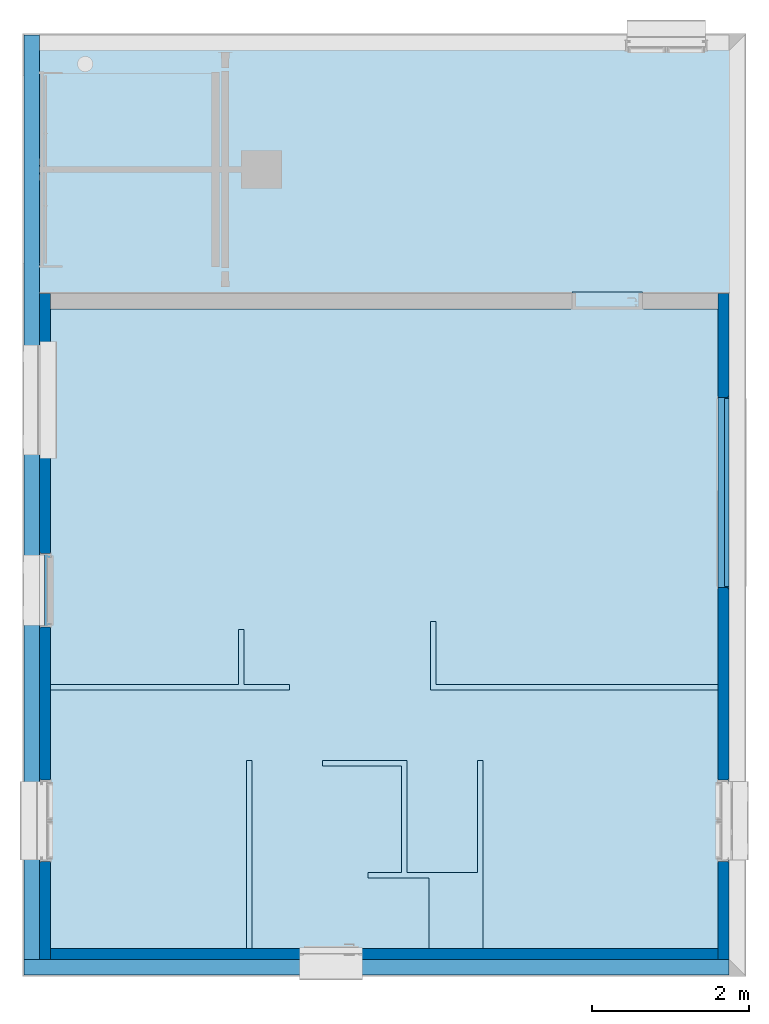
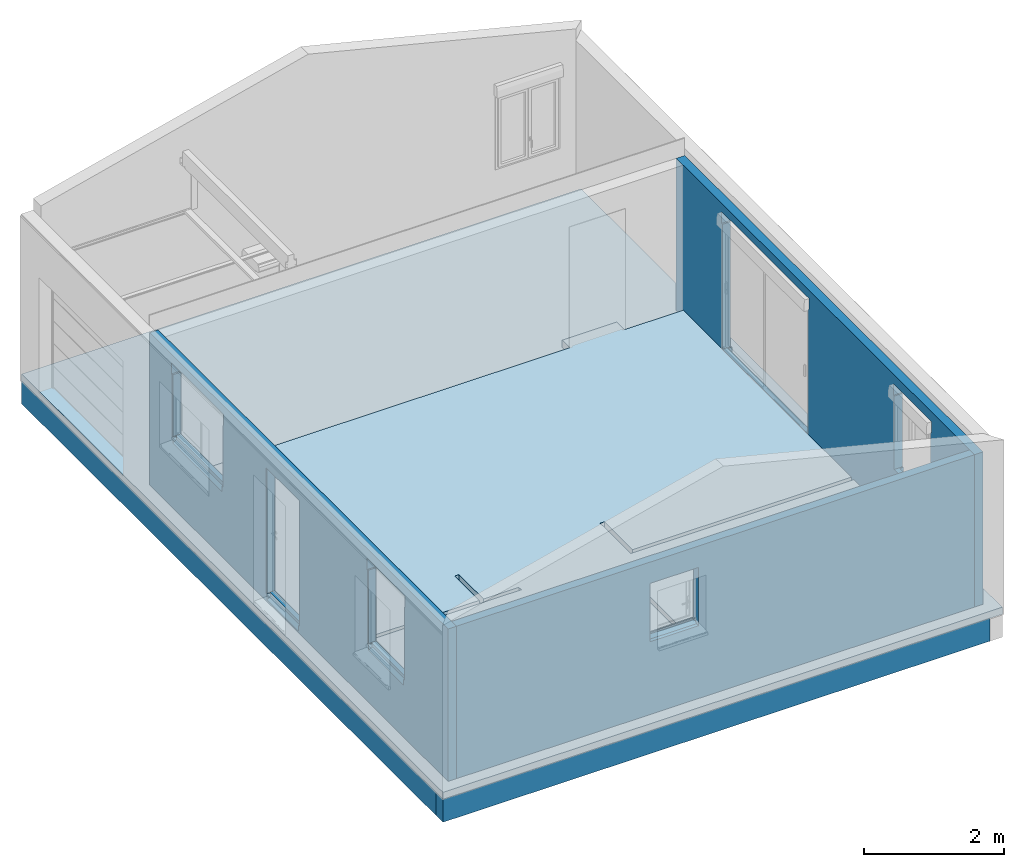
# One storey, part 1 of 7: 5 walls, 2 slabs, 6 openings.
"""IFC2X3 building model written with IfcOpenShell, lengths in metres."""

from ifc_helpers import new_model, entity, si_unit, converted_unit, derived_unit, direction, frame, frame_2d, origin, place, context, subcontext, project, spatial, polyline, rectangle, outline, extrude, clip, bounded_halfspace, faceted_brep, material, layer, layer_set, layer_usage, type_object, element, save


model = new_model("IFC2X3")

# Units and contexts
model_context = context("Model", 3, precision=1e-05, world=origin(), true_north=direction((6.123031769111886e-17, 1.0)))
body_context = subcontext(model_context, "Body", "Model", "MODEL_VIEW")
ifc_project = project(units=[si_unit("LENGTHUNIT", "METRE"), si_unit("AREAUNIT", "SQUARE_METRE"), si_unit("VOLUMEUNIT", "CUBIC_METRE"), converted_unit("PLANEANGLEUNIT", "DEGREE", entity("IfcRatioMeasure", 0.017453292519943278), si_unit("PLANEANGLEUNIT", "RADIAN"), dimensions=[0, 0, 0, 0, 0, 0, 0]), si_unit("MASSUNIT", "GRAM", prefix="KILO"), derived_unit("MASSDENSITYUNIT", [(si_unit("MASSUNIT", "GRAM", prefix="KILO"), 1), (si_unit("LENGTHUNIT", "METRE"), -3)]), derived_unit("IONCONCENTRATIONUNIT", [(si_unit("MASSUNIT", "GRAM", prefix="KILO"), 1), (si_unit("LENGTHUNIT", "METRE"), -3)]), derived_unit("MOMENTOFINERTIAUNIT", [(si_unit("LENGTHUNIT", "METRE"), 4)]), si_unit("TIMEUNIT", "SECOND"), si_unit("FREQUENCYUNIT", "HERTZ"), si_unit("THERMODYNAMICTEMPERATUREUNIT", "DEGREE_CELSIUS"), derived_unit("THERMALTRANSMITTANCEUNIT", [(si_unit("MASSUNIT", "GRAM", prefix="KILO"), 1), (si_unit("THERMODYNAMICTEMPERATUREUNIT", "KELVIN"), -1), (si_unit("TIMEUNIT", "SECOND"), -3)]), derived_unit("THERMALCONDUCTANCEUNIT", [(si_unit("MASSUNIT", "GRAM", prefix="KILO"), 1), (si_unit("THERMODYNAMICTEMPERATUREUNIT", "KELVIN"), -1), (si_unit("TIMEUNIT", "SECOND"), -3), (si_unit("LENGTHUNIT", "METRE"), 1)]), derived_unit("VOLUMETRICFLOWRATEUNIT", [(si_unit("LENGTHUNIT", "METRE"), 3), (si_unit("TIMEUNIT", "SECOND"), -1)]), derived_unit("MASSFLOWRATEUNIT", [(si_unit("MASSUNIT", "GRAM", prefix="KILO"), 1), (si_unit("TIMEUNIT", "SECOND"), -1)]), derived_unit("ROTATIONALFREQUENCYUNIT", [(si_unit("TIMEUNIT", "SECOND"), -1)]), si_unit("ELECTRICCURRENTUNIT", "AMPERE"), si_unit("ELECTRICVOLTAGEUNIT", "VOLT"), si_unit("POWERUNIT", "WATT"), si_unit("FORCEUNIT", "NEWTON", prefix="KILO"), si_unit("ILLUMINANCEUNIT", "LUX"), si_unit("LUMINOUSFLUXUNIT", "LUMEN"), si_unit("LUMINOUSINTENSITYUNIT", "CANDELA"), derived_unit("USERDEFINED", [(si_unit("MASSUNIT", "GRAM", prefix="KILO"), -1), (si_unit("LENGTHUNIT", "METRE"), -2), (si_unit("TIMEUNIT", "SECOND"), 3), (si_unit("LUMINOUSFLUXUNIT", "LUMEN"), 1)]), derived_unit("USERDEFINED", [(si_unit("MASSUNIT", "GRAM", prefix="KILO"), 1), (si_unit("TIMEUNIT", "SECOND"), -3), (si_unit("LENGTHUNIT", "METRE"), 3), (si_unit("ELECTRICCURRENTUNIT", "AMPERE"), -2)]), derived_unit("SOUNDPOWERUNIT", [(si_unit("MASSUNIT", "GRAM", prefix="KILO"), 1), (si_unit("TIMEUNIT", "SECOND"), -3), (si_unit("LENGTHUNIT", "METRE"), 2)]), derived_unit("SOUNDPRESSUREUNIT", [(si_unit("MASSUNIT", "GRAM", prefix="KILO"), 1), (si_unit("LENGTHUNIT", "METRE"), -1), (si_unit("TIMEUNIT", "SECOND"), -2)]), derived_unit("LINEARVELOCITYUNIT", [(si_unit("LENGTHUNIT", "METRE"), 1), (si_unit("TIMEUNIT", "SECOND"), -1)]), si_unit("PRESSUREUNIT", "PASCAL"), derived_unit("USERDEFINED", [(si_unit("MASSUNIT", "GRAM", prefix="KILO"), 1), (si_unit("LENGTHUNIT", "METRE"), -2), (si_unit("TIMEUNIT", "SECOND"), -2)]), derived_unit("LINEARFORCEUNIT", [(si_unit("MASSUNIT", "GRAM", prefix="KILO"), 1), (si_unit("TIMEUNIT", "SECOND"), -2)]), derived_unit("PLANARFORCEUNIT", [(si_unit("MASSUNIT", "GRAM", prefix="KILO"), 1), (si_unit("LENGTHUNIT", "METRE"), -1), (si_unit("TIMEUNIT", "SECOND"), -2)]), derived_unit("SPECIFICHEATCAPACITYUNIT", [(si_unit("THERMODYNAMICTEMPERATUREUNIT", "KELVIN"), -1), (si_unit("LENGTHUNIT", "METRE"), 2), (si_unit("TIMEUNIT", "SECOND"), -2)]), derived_unit("HEATINGVALUEUNIT", [(si_unit("LENGTHUNIT", "METRE"), 2), (si_unit("TIMEUNIT", "SECOND"), -2)]), derived_unit("VAPORPERMEABILITYUNIT", [(si_unit("LENGTHUNIT", "METRE"), -1), (si_unit("TIMEUNIT", "SECOND"), 1)]), derived_unit("DYNAMICVISCOSITYUNIT", [(si_unit("MASSUNIT", "GRAM", prefix="KILO"), 1), (si_unit("TIMEUNIT", "SECOND"), -1), (si_unit("LENGTHUNIT", "METRE"), -1)]), derived_unit("THERMALEXPANSIONCOEFFICIENTUNIT", [(si_unit("THERMODYNAMICTEMPERATUREUNIT", "KELVIN"), -1)]), derived_unit("MODULUSOFELASTICITYUNIT", [(si_unit("MASSUNIT", "GRAM", prefix="KILO"), 1), (si_unit("LENGTHUNIT", "METRE"), -1), (si_unit("TIMEUNIT", "SECOND"), -2)]), derived_unit("ISOTHERMALMOISTURECAPACITYUNIT", [(si_unit("LENGTHUNIT", "METRE"), 3), (si_unit("MASSUNIT", "GRAM", prefix="KILO"), -1)]), derived_unit("MOISTUREDIFFUSIVITYUNIT", [(si_unit("TIMEUNIT", "SECOND"), -1), (si_unit("LENGTHUNIT", "METRE"), 2)])], contexts=[model_context])

# Site, building, storey
site_placement = place(None, frame((1.2553507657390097, -0.6266432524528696, -1.0397761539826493), z_axis=(0.0, 0.0, 1.0), x_axis=(-1.0, 0.0, 0.0)))
site = spatial("IfcSite", under=ifc_project, at=site_placement, Name="Default", CompositionType="ELEMENT")
building_placement = place(site_placement, origin())
building = spatial("IfcBuilding", under=site, at=building_placement, Name="MAISON D'HABITATION", CompositionType="ELEMENT")
storey_placement = place(building_placement, frame((0.0, 0.0, 0.38977615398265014)))
storey = spatial("IfcBuildingStorey", under=building, at=storey_placement, Name="Niveau dessus semelle filante", CompositionType="ELEMENT", Elevation=0.38977615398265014)

# Slabs
ifc_material_1 = material(Name="Béton, coulé sur place")
ifc_layer_1 = layer(ifc_material_1, 0.12)
ifc_layer_set_1 = layer_set([ifc_layer_1], Name="Sol:dalle beton 12cm")
ifc_layer_usage_1 = layer_usage(ifc_layer_set_1, "AXIS3", "POSITIVE", 0.0)
slab_type_1 = type_object("IfcSlabType", Name="Sol:dalle beton 12cm", PredefinedType="FLOOR", material=ifc_layer_set_1)
slab_1_placement = place(storey_placement, origin())
element("IfcSlab", 1, at=slab_1_placement, inside=storey, type_object=slab_type_1, material=ifc_layer_usage_1, Name="Sol:dalle beton 12cm", ObjectType="Sol:dalle beton 12cm", PredefinedType="FLOOR", context=body_context, shape_type="SweptSolid", body=[
    extrude(rectangle(XDim=12.0, YDim=9.199999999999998, at=frame_2d((0.0, -9.769962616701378e-15), x_axis=(1.0, 0.0))), frame((-0.2798669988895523, -2.6638169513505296, 0.5199999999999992), z_axis=(0.0, 0.0, -1.0), x_axis=(0.0, 1.0, 0.0)), (0.0, 0.0, 1.0), 0.12000000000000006),
])
ifc_material_2 = material(Name="Carrelage 40 x 40")
ifc_layer_2 = layer(ifc_material_2, 0.015)
ifc_material_3 = material(Name="Béton - Chape liquide")
ifc_layer_3 = layer(ifc_material_3, 0.055)
ifc_material_4 = material(Name="Isolant rigide")
ifc_layer_4 = layer(ifc_material_4, 0.06)
ifc_layer_set_2 = layer_set([ifc_layer_2, ifc_layer_3, ifc_layer_4], Name="Sol:plancher chauffant+chape+carrelage = 0.13m")
ifc_layer_usage_2 = layer_usage(ifc_layer_set_2, "AXIS3", "POSITIVE", 0.0)
slab_type_2 = type_object("IfcSlabType", Name="Sol:plancher chauffant+chape+carrelage = 0.13m", PredefinedType="FLOOR", material=ifc_layer_set_2)
slab_2_placement = place(storey_placement, origin())
element("IfcSlab", 2, at=slab_2_placement, inside=storey, type_object=slab_type_2, material=ifc_layer_usage_2, Name="Sol:plancher chauffant+chape+carrelage = 0.13m", ObjectType="Sol:plancher chauffant+chape+carrelage = 0.13m", PredefinedType="FLOOR", context=body_context, shape_type="SweptSolid", body=[
    extrude(outline(polyline([(-5.0591000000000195, -4.204000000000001), (-0.26909999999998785, -4.204000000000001), (-0.26909999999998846, -0.6039999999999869), (-1.0691000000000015, -0.6039999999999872), (-1.069100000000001, -0.5339999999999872), (-0.1990999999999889, -0.5339999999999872), (-0.1990999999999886, -4.204), (3.100899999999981, -4.204), (3.100899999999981, -1.2039999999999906), (0.7008999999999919, -1.2040000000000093), (0.7008999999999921, -1.1340000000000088), (2.130900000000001, -1.1339999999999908), (2.1309000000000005, -0.2339999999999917), (0.700900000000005, -0.23399999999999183), (0.7009000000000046, 0.8459999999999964), (0.7709000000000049, 0.8459999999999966), (0.7709000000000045, -0.16399999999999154), (2.130900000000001, -0.16399999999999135), (2.130900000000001, 0.266000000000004), (2.2009, 0.2660000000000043), (2.2008999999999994, -0.514000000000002), (3.100899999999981, -0.5140000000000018), (3.1008999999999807, 1.7459999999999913), (0.7009000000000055, 1.7459999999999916), (0.7009000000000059, 1.8159999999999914), (3.100899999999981, 1.8159999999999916), (3.1008999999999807, 4.335999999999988), (-0.19910000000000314, 4.335999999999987), (-0.199099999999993, 1.2659999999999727), (-0.26909999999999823, 1.2659999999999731), (-0.2690999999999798, 1.8460000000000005), (-0.9690999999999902, 1.8460000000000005), (-0.9690999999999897, 1.9160000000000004), (-0.26909999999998, 1.9160000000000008), (-0.2690999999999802, 4.33599999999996), (-5.0591000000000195, 4.33599999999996), (-5.0591000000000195, -2.3389999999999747), (-5.2770999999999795, -2.3389999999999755), (-5.2770999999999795, -3.2389999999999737), (-5.0591000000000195, -3.2389999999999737), (-5.0591000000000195, -4.204000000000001)])), frame((-0.33586699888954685, -0.10471695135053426, 0.6499999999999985), z_axis=(0.0, 0.0, -1.0), x_axis=(0.0, 1.0, 0.0)), (0.0, 0.0, 1.0), 0.12999999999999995),
])

# Wall, openings
ifc_material_5 = material(Name="Isolation")
ifc_layer_5 = layer(ifc_material_5, 0.12)
ifc_material_6 = material(Name="Plaque de mur de gypse")
ifc_layer_6 = layer(ifc_material_6, 0.013)
ifc_material_7 = material(Name="Peinture")
ifc_layer_7 = layer(ifc_material_7, 0.007)
ifc_layer_set_3 = layer_set([ifc_layer_5, ifc_layer_6, ifc_layer_7], Name="Mur de base:isolation+placo+peinture 14cm")
ifc_layer_usage_3 = layer_usage(ifc_layer_set_3, "AXIS2", "NEGATIVE", 0.07)
wall_type_1 = type_object("IfcWallType", Name="Mur de base:isolation+placo+peinture 14cm", PredefinedType="STANDARD", material=ifc_layer_set_3)
wall_1_placement = place(storey_placement, frame((4.050133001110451, 3.136183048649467, 0.5199999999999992), z_axis=(0.0, 0.0, 1.0), x_axis=(0.0, -1.0, 0.0)))
wall_1 = element("IfcWallStandardCase", 3, at=wall_1_placement, inside=storey, type_object=wall_type_1, material=ifc_layer_usage_3, Name="Mur de base:isolation+placo+peinture 14cm", ObjectType="Mur de base:isolation+placo+peinture 14cm", context=body_context, shape_type="SweptSolid", body=[
    extrude(rectangle(XDim=8.5, YDim=0.14000000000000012, at=frame_2d((4.25, -1.5959455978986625e-16), x_axis=(-1.0, 0.0))), origin(), (0.0, 0.0, 1.0), 2.6499999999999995),
])
opening_1_placement = place(wall_1_placement, frame((7.883999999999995, -0.07000000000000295, 1.1300000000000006), z_axis=(0.0, 0.0, 1.0), x_axis=(0.0, 1.0, 0.0)))
element("IfcOpeningElement", 4, at=opening_1_placement, cuts=wall_1, Name="Mur de base:isolation+placo+peinture 14cm", ObjectType="Opening", context=body_context, shape_type="Brep", body=[
    faceted_brep([(0.08000000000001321, 0.04399999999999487, 0.043280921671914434), (0.08000000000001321, 0.04399999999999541, 0.10000000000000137), (0.08000000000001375, 1.443999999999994, 0.10000000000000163), (0.08000000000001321, 1.443999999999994, 0.04328092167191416), (2.247000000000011, 1.4439999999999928, 1.1499999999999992), (2.247000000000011, 0.04399999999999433, 1.1499999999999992), (2.247000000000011, 0.04399999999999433, 0.0), (2.247000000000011, 1.4439999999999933, 0.0), (0.13999999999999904, 0.04399999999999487, 1.1499999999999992), (0.13999999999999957, 1.443999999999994, 1.1499999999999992), (0.13999999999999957, 1.47600000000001, 0.10000000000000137), (0.13999999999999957, 1.443999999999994, 0.10000000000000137), (0.13999999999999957, 0.04399999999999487, 0.10000000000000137), (0.13999999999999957, 0.012000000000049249, 0.10000000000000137), (0.12699999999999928, 0.012000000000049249, 0.10000000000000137), (0.12699999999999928, 0.02899999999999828, 0.10000000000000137), (0.0, 0.02899999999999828, 0.10000000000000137), (0.0, 1.4589999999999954, 0.10000000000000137), (0.12699999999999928, 1.4589999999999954, 0.10000000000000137), (0.12699999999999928, 1.47600000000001, 0.10000000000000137), (0.1400000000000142, 1.443999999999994, 0.0), (0.0, 0.02899999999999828, 1.1754999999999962), (0.0, 0.0, 1.1754999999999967), (0.0, 0.0, 1.3754999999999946), (0.0, 1.4879999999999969, 1.3754999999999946), (0.0, 1.4879999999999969, 1.1754999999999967), (0.0, 1.4589999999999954, 1.1754999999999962), (0.14000000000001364, 0.04399999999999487, 0.0), (0.13999999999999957, 1.47600000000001, 1.1754999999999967), (0.13999999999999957, 1.4879999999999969, 1.1754999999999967), (0.14000000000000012, 1.4879999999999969, 1.375499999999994), (0.13999999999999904, 0.0, 1.3754999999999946), (0.13999999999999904, 0.0, 1.1754999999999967), (0.13999999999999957, 0.012000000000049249, 1.1754999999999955), (0.12699999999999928, 1.47600000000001, 1.1754999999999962), (0.12699999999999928, 0.012000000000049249, 1.1754999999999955), (0.12699999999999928, 1.4589999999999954, 1.1754999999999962), (0.12699999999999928, 0.02899999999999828, 1.1754999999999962)], [[[0, 1, 2, 3]], [[4, 5, 6, 7]], [[8, 5, 4, 9]], [[10, 11, 2, 1, 12, 13, 14, 15, 16, 17, 18, 19]], [[4, 7, 20, 3, 2, 11, 9]], [[21, 22, 23, 24, 25, 26, 17, 16]], [[8, 12, 1, 0, 27, 6, 5]], [[28, 29, 30, 31, 32, 33, 13, 12, 8, 9, 11, 10]], [[19, 34, 28, 10]], [[13, 33, 35, 14]], [[18, 36, 34, 19]], [[17, 26, 36, 18]], [[15, 37, 21, 16]], [[14, 35, 37, 15]], [[24, 30, 29, 25]], [[23, 22, 32, 31]], [[24, 23, 31, 30]], [[29, 28, 34, 36, 26, 25]], [[20, 27, 0, 3]], [[7, 6, 27, 20]], [[22, 21, 37, 35, 33, 32]]]),
])
opening_2_placement = place(wall_1_placement, frame((2.314000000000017, -0.07000000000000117, 0.9044999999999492), z_axis=(0.0, 0.0, 1.0), x_axis=(0.0, 1.0, 0.0)))
element("IfcOpeningElement", 5, at=opening_2_placement, cuts=wall_1, Name="Mur de base:isolation+placo+peinture 14cm", ObjectType="Opening", context=body_context, shape_type="Brep", body=[
    faceted_brep([(1.5700000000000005, 0.04399999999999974, 1.3754999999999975), (1.5700000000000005, 1.0439999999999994, 1.3754999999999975), (0.13999999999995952, 1.0439999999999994, 1.3754999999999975), (0.1399999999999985, 0.04400000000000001, 1.3754999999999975), (0.1399999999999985, 0.011999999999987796, 0.10000000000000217), (0.12699999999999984, 0.011999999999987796, 0.10000000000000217), (0.12699999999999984, 0.02500063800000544, 0.10000000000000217), (0.0, 0.025000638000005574, 0.10000000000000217), (0.0, 1.0629993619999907, 0.10000000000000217), (0.12700000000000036, 1.0629993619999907, 0.10000000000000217), (0.12700000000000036, 1.0759999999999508, 0.10000000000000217), (0.1399999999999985, 1.0759999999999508, 0.10000000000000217), (0.1399999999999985, 1.0439999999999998, 0.10000000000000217), (0.120000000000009, 1.0439999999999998, 0.10000000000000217), (0.0800000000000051, 1.0439999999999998, 0.10000000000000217), (0.08000000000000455, 0.04400000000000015, 0.10000000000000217), (0.12000000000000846, 0.04400000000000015, 0.10000000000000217), (0.1399999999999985, 0.04400000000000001, 0.10000000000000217), (1.5700000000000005, 0.04399999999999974, 0.10000000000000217), (1.5700000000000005, 1.0439999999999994, 0.10000000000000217), (0.08000000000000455, 0.04400000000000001, 0.04328092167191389), (0.14000000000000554, 0.04400000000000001, 0.0), (0.3899999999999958, 0.04400000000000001, 0.0), (0.3899999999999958, 0.04400000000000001, 0.10000000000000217), (0.0, 1.0629993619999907, 1.3754999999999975), (0.0, 0.02500063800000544, 1.3754999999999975), (0.0, 0.0, 1.375500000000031), (0.0, 0.0, 1.5755000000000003), (0.0, 1.0880000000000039, 1.5755000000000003), (0.0, 1.0880000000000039, 1.3755000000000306), (0.38999999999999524, 1.0439999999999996, 0.10000000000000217), (0.38999999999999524, 1.0439999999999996, 0.0), (0.14000000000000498, 1.0439999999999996, 0.0), (0.08000000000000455, 1.0439999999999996, 0.04328092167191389), (0.1399999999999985, 0.011999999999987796, 1.3754999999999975), (0.1399999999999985, 1.0759999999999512, 1.3755000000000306), (0.13999999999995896, 1.0880000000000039, 1.375500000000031), (0.1399999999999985, 1.0880000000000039, 1.5754999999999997), (0.13999999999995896, 0.0, 1.5755000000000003), (0.13999999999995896, 0.0, 1.3755000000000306), (0.12699999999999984, 0.011999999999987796, 1.3754999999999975), (0.12699999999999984, 1.0759999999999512, 1.3755000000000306), (0.12699999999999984, 0.02500063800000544, 1.3754999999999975), (0.12699999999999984, 1.0629993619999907, 1.3754999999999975)], [[[0, 1, 2, 3]], [[4, 5, 6, 7, 8, 9, 10, 11, 12, 13, 14, 15, 16, 17]], [[1, 0, 18, 19]], [[18, 0, 3, 17, 16, 15, 20, 21, 22, 23]], [[24, 8, 7, 25, 26, 27, 28, 29]], [[1, 19, 30, 31, 32, 33, 14, 13, 12, 2]], [[34, 4, 17, 3, 2, 12, 11, 35, 36, 37, 38, 39]], [[5, 4, 34, 40]], [[11, 10, 41, 35]], [[6, 5, 40, 42]], [[7, 6, 42, 25]], [[9, 8, 24, 43]], [[10, 9, 43, 41]], [[38, 27, 26, 39]], [[37, 36, 29, 28]], [[39, 26, 25, 42, 40, 34]], [[27, 38, 37, 28]], [[23, 22, 31, 30]], [[22, 21, 32, 31]], [[21, 20, 33, 32]], [[20, 15, 14, 33]], [[29, 36, 35, 41, 43, 24]], [[19, 18, 23, 30]]]),
])
opening_3_placement = place(wall_1_placement, frame((5.192000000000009, -0.07000000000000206, 0.02999999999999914), z_axis=(0.0, 0.0, 1.0), x_axis=(0.0, 1.0, 0.0)))
element("IfcOpeningElement", 6, at=opening_3_placement, cuts=wall_1, Name="Mur de base:isolation+placo+peinture 14cm", ObjectType="Opening", context=body_context, shape_type="Brep", body=[
    faceted_brep([(0.14000000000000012, 0.9640000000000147, 2.282000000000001), (0.12699999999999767, 0.9640000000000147, 2.282000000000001), (0.12699999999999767, 0.9509993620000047, 2.282000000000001), (0.0, 0.9509993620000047, 2.282000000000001), (0.0, 0.013000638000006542, 2.282000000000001), (0.1270000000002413, 0.013000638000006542, 2.282000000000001), (0.1270000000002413, 0.0, 2.282000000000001), (0.13999999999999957, 0.0, 2.282000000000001), (0.14000000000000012, 0.9640000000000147, 0.10000000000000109), (0.14000000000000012, 0.9320000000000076, 0.10000000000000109), (0.08000000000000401, 0.9320000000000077, 0.10000000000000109), (0.08000000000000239, 0.03200000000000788, 0.10000000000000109), (0.13999999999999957, 0.032000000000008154, 0.10000000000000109), (0.13999999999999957, 0.0, 0.10000000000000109), (0.1270000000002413, 0.0, 0.10000000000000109), (0.1270000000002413, 0.013000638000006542, 0.10000000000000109), (0.0, 0.013000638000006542, 0.10000000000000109), (0.0, 0.9509993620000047, 0.10000000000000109), (0.12699999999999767, 0.9509993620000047, 0.10000000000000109), (0.12699999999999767, 0.9640000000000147, 0.10000000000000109), (0.14000000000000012, 0.032000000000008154, 2.250000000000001), (0.14000000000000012, 0.9320000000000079, 2.250000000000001), (1.9400000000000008, 0.03200000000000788, 2.250000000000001), (1.9400000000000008, 0.9320000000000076, 2.250000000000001), (1.9400000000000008, 0.03200000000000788, 0.10000000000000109), (1.9400000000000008, 0.9320000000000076, 0.10000000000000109), (1.2599999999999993, 0.9320000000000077, 0.10000000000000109), (1.2599999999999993, 0.9320000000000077, 0.0), (0.14000000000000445, 0.9320000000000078, 0.0), (0.08000000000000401, 0.9320000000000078, 0.04328092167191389), (0.08000000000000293, 0.032000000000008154, 0.04328092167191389), (0.14000000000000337, 0.032000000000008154, 0.0), (1.2599999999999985, 0.03200000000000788, 0.0), (1.2599999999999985, 0.03200000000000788, 0.10000000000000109)], [[[0, 1, 2, 3, 4, 5, 6, 7]], [[8, 9, 10, 11, 12, 13, 14, 15, 16, 17, 18, 19]], [[0, 8, 19, 1]], [[1, 19, 18, 2]], [[2, 18, 17, 3]], [[3, 17, 16, 4]], [[4, 16, 15, 5]], [[5, 15, 14, 6]], [[6, 14, 13, 7]], [[7, 13, 12, 20, 21, 9, 8, 0]], [[22, 23, 21, 20]], [[22, 24, 25, 23]], [[23, 25, 26, 27, 28, 29, 10, 9, 21]], [[20, 12, 11, 30, 31, 32, 33, 24, 22]], [[26, 33, 32, 27]], [[27, 32, 31, 28]], [[28, 31, 30, 29]], [[29, 30, 11, 10]], [[24, 33, 26, 25]]]),
])

ifc_layer_usage_4 = layer_usage(ifc_layer_set_3, "AXIS2", "POSITIVE", -0.07)
wall_2_placement = place(storey_placement, frame((-4.609866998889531, 3.1361830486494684, 0.5199999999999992), z_axis=(0.0, 0.0, 1.0), x_axis=(0.0, -1.0, 0.0)))
wall_2 = element("IfcWallStandardCase", 7, at=wall_2_placement, inside=storey, type_object=wall_type_1, material=ifc_layer_usage_4, Name="Mur de base:isolation+placo+peinture 14cm", ObjectType="Mur de base:isolation+placo+peinture 14cm", context=body_context, shape_type="SweptSolid", body=[
    extrude(rectangle(XDim=8.500000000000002, YDim=0.14000000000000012, at=frame_2d((4.250000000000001, -1.5959455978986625e-16), x_axis=(-1.0, 0.0))), origin(), (0.0, 0.0, 1.0), 2.6499999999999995),
])
opening_4_placement = place(wall_2_placement, frame((7.203999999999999, -2.1770000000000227, 0.029999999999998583), z_axis=(0.0, 0.0, 1.0), x_axis=(0.0, 1.0, 0.0)))
element("IfcOpeningElement", 8, at=opening_4_placement, cuts=wall_2, Name="Mur de base:isolation+placo+peinture 14cm", ObjectType="Opening", context=body_context, shape_type="Brep", body=[
    faceted_brep([(2.1070000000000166, 2.444000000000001, 2.25), (0.0, 2.4440000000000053, 2.250000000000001), (0.0, 0.044000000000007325, 2.25), (2.1070000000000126, 0.044000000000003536, 2.25), (2.1070000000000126, 0.011999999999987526, 0.10000000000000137), (2.1070000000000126, 0.044000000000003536, 0.10000000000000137), (2.167000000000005, 0.044000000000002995, 0.10000000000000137), (2.167000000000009, 2.444000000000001, 0.10000000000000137), (2.107000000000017, 2.444000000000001, 0.10000000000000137), (2.107000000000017, 2.475999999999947, 0.10000000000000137), (2.1200000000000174, 2.475999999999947, 0.10000000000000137), (2.1200000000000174, 2.4589999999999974, 0.10000000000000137), (2.247000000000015, 2.4589999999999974, 0.10000000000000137), (2.2470000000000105, 0.02900000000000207, 0.10000000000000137), (2.120000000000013, 0.02900000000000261, 0.10000000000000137), (2.120000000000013, 0.011999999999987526, 0.10000000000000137), (0.0, 0.044000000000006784, 0.0), (2.107000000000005, 0.044000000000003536, 0.0), (2.1670000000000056, 0.044000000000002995, 0.043280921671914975), (2.2470000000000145, 2.4589999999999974, 2.275499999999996), (2.247000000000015, 2.4879999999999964, 2.275499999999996), (2.2470000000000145, 2.4879999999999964, 2.475499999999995), (2.24700000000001, 0.0, 2.475499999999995), (2.24700000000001, 0.0, 2.275499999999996), (2.24700000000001, 0.02900000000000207, 2.275499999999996), (2.1670000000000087, 2.444000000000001, 0.043280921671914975), (2.1070000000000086, 2.444000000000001, 0.0), (0.0, 2.444000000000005, 0.0), (2.107000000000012, 0.011999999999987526, 2.275499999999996), (2.107000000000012, 0.0, 2.275499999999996), (2.1070000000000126, 0.0, 2.475499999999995), (2.107000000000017, 2.4879999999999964, 2.475499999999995), (2.1070000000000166, 2.4879999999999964, 2.275499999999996), (2.107000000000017, 2.475999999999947, 2.275499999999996), (2.120000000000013, 0.011999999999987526, 2.275499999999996), (2.1200000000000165, 2.475999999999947, 2.275499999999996), (2.1200000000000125, 0.02900000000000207, 2.275499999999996), (2.1200000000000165, 2.4589999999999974, 2.275499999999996)], [[[0, 1, 2, 3]], [[4, 5, 6, 7, 8, 9, 10, 11, 12, 13, 14, 15]], [[2, 16, 17, 18, 6, 5, 3]], [[19, 20, 21, 22, 23, 24, 13, 12]], [[0, 8, 7, 25, 26, 27, 1]], [[28, 29, 30, 31, 32, 33, 9, 8, 0, 3, 5, 4]], [[15, 34, 28, 4]], [[9, 33, 35, 10]], [[14, 36, 34, 15]], [[13, 24, 36, 14]], [[11, 37, 19, 12]], [[10, 35, 37, 11]], [[22, 30, 29, 23]], [[21, 20, 32, 31]], [[22, 21, 31, 30]], [[29, 28, 34, 36, 24, 23]], [[17, 26, 25, 18]], [[25, 7, 6, 18]], [[2, 1, 27, 16]], [[16, 27, 26, 17]], [[20, 19, 37, 35, 33, 32]]]),
])
opening_5_placement = place(wall_2_placement, frame((2.3139999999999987, -1.5000000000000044, 0.9044999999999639), z_axis=(0.0, 0.0, 1.0), x_axis=(0.0, 1.0, 0.0)))
element("IfcOpeningElement", 9, at=opening_5_placement, cuts=wall_2, Name="Mur de base:isolation+placo+peinture 14cm", ObjectType="Opening", context=body_context, shape_type="Brep", body=[
    faceted_brep([(0.0, 0.044000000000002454, 1.3754999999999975), (1.430000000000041, 0.04400000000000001, 1.3754999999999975), (1.4300000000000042, 1.0439999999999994, 1.3754999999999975), (0.0, 1.0440000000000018, 1.3754999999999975), (1.430000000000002, 0.011999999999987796, 0.10000000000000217), (1.430000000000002, 0.04400000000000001, 0.10000000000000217), (1.449999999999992, 0.04400000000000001, 0.10000000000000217), (1.489999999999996, 0.04399999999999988, 0.10000000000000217), (1.4899999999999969, 1.0439999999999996, 0.10000000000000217), (1.449999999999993, 1.0439999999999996, 0.10000000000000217), (1.4300000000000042, 1.0439999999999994, 0.10000000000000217), (1.4300000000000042, 1.075999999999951, 0.10000000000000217), (1.4430000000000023, 1.075999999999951, 0.10000000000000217), (1.4430000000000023, 1.0629993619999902, 0.10000000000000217), (1.570000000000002, 1.0629993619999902, 0.10000000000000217), (1.5700000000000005, 0.025000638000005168, 0.10000000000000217), (1.4430000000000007, 0.025000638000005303, 0.10000000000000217), (1.4430000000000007, 0.011999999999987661, 0.10000000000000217), (0.0, 1.0440000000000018, 0.10000000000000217), (0.0, 0.044000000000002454, 0.10000000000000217), (1.1800000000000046, 0.04400000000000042, 0.10000000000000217), (1.1800000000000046, 0.04400000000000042, 0.0), (1.4299999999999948, 0.04400000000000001, 0.0), (1.489999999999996, 0.04399999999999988, 0.04328092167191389), (1.570000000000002, 1.0629993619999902, 1.3754999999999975), (1.5700000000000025, 1.0880000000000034, 1.3755000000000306), (1.5700000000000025, 1.0880000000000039, 1.5755000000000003), (1.5700000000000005, 0.0, 1.5755000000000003), (1.5700000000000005, 0.0, 1.3755000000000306), (1.5700000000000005, 0.025000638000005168, 1.3754999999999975), (1.489999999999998, 1.0439999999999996, 0.04328092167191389), (1.429999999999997, 1.0439999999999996, 0.0), (1.180000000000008, 1.0440000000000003, 0.0), (1.1800000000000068, 1.044, 0.10000000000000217), (1.4300000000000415, 0.011999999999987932, 1.3755000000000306), (1.4300000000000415, 0.0, 1.3755000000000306), (1.4300000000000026, 0.0, 1.5755000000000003), (1.4300000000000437, 1.0880000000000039, 1.5755000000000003), (1.4300000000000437, 1.088000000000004, 1.3755000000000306), (1.4300000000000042, 1.075999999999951, 1.3754999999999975), (1.443, 0.011999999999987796, 1.3755000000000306), (1.4430000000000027, 1.075999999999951, 1.3754999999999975), (1.4430000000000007, 0.02500063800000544, 1.3755000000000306), (1.4430000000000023, 1.0629993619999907, 1.3755000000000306)], [[[0, 1, 2, 3]], [[4, 5, 6, 7, 8, 9, 10, 11, 12, 13, 14, 15, 16, 17]], [[3, 18, 19, 0]], [[19, 20, 21, 22, 23, 7, 6, 5, 1, 0]], [[24, 25, 26, 27, 28, 29, 15, 14]], [[3, 2, 10, 9, 8, 30, 31, 32, 33, 18]], [[34, 35, 36, 37, 38, 39, 11, 10, 2, 1, 5, 4]], [[17, 40, 34, 4]], [[11, 39, 41, 12]], [[16, 42, 40, 17]], [[15, 29, 42, 16]], [[13, 43, 24, 14]], [[12, 41, 43, 13]], [[36, 35, 28, 27]], [[37, 26, 25, 38]], [[35, 34, 40, 42, 29, 28]], [[27, 26, 37, 36]], [[20, 33, 32, 21]], [[21, 32, 31, 22]], [[22, 31, 30, 23]], [[23, 30, 8, 7]], [[25, 24, 43, 41, 39, 38]], [[18, 33, 20, 19]]]),
])

# Wall, opening
wall_3_placement = place(storey_placement, frame((-4.539866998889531, 3.0661830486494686, 0.5199999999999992)))
wall_3 = element("IfcWallStandardCase", 10, at=wall_3_placement, inside=storey, type_object=wall_type_1, material=ifc_layer_usage_3, Name="Mur de base:isolation+placo+peinture 14cm", ObjectType="Mur de base:isolation+placo+peinture 14cm", context=body_context, shape_type="SweptSolid", body=[
    extrude(rectangle(XDim=8.519999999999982, YDim=0.14000000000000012, at=frame_2d((4.259999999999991, -3.0531133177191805e-16), x_axis=(-1.0, 0.0))), origin(), (0.0, 0.0, 1.0), 2.6499999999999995),
])
opening_6_placement = place(wall_3_placement, frame((4.539999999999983, -0.07000000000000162, 1.2649999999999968)))
element("IfcOpeningElement", 11, at=opening_6_placement, cuts=wall_3, Name="Mur de base:isolation+placo+peinture 14cm", ObjectType="Opening", context=body_context, shape_type="Brep", body=[
    faceted_brep([(0.8000000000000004, 1.6940000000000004, 1.0150000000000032), (0.0, 1.6940000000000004, 1.0150000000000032), (0.0, 0.0, 1.0150000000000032), (0.8, 0.0, 1.0150000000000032), (0.0, 0.0, 0.0650000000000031), (0.0, 0.02250000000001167, 0.0650000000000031), (0.8, 0.022500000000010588, 0.0650000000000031), (0.8, 0.0, 0.0650000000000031), (0.8000000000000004, 1.6940000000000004, 0.0650000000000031), (0.0, 1.6940000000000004, 0.06500000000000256), (0.0, 0.959999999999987, 0.06500000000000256), (0.0, 0.959999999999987, 0.0), (0.0, 0.0825000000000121, 0.0), (0.0, 0.02250000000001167, 0.04328092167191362), (0.7999999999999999, 0.02250000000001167, 0.04328092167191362), (0.7999999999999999, 0.08250000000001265, 0.0), (0.8, 0.9599999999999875, 0.0), (0.8000000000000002, 0.959999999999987, 0.0650000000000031)], [[[0, 1, 2, 3]], [[4, 5, 6, 7]], [[0, 8, 9, 1]], [[1, 9, 10, 11, 12, 13, 5, 4, 2]], [[2, 4, 7, 3]], [[3, 7, 6, 14, 15, 16, 17, 8, 0]], [[11, 10, 17, 16]], [[11, 16, 15, 12]], [[12, 15, 14, 13]], [[14, 6, 5, 13]], [[8, 17, 10, 9]]]),
])

# Walls
ifc_material_8 = material(Name="Mur par défaut")
ifc_layer_8 = layer(ifc_material_8, 0.2)
ifc_layer_set_4 = layer_set([ifc_layer_8], Name="Mur de base:Générique - 200 mm")
ifc_layer_usage_5 = layer_usage(ifc_layer_set_4, "AXIS2", "POSITIVE", -0.1)
wall_type_2 = type_object("IfcWallType", Name="Mur de base:Générique - 200 mm", PredefinedType="STANDARD", material=ifc_layer_set_4)
wall_4_placement = place(storey_placement, frame((-4.67986699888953, 3.2361830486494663, 0.0)))
element("IfcWallStandardCase", 12, at=wall_4_placement, inside=storey, type_object=wall_type_2, material=ifc_layer_usage_5, Name="Mur de base:Générique - 200 mm", ObjectType="Mur de base:Générique - 200 mm", context=body_context, shape_type="Clipping", body=[
    clip(extrude(rectangle(XDim=8.999999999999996, YDim=0.2, at=frame_2d((4.499999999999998, 4.85722573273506e-17), x_axis=(-1.0, 0.0))), origin(), (0.0, 0.0, 1.0), 0.39999999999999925), bounded_halfspace(frame((0.0, -0.1, 0.39999999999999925), z_axis=(0.0, 0.0, -1.0), x_axis=(1.0, 0.0, 0.0)), True, frame((0.0, -0.1, 0.39999999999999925)), polyline([(0.0, 0.0), (8.799999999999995, 0.0), (9.0, 0.0), (9.0, 0.20000000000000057), (0.0, 0.2), (0.0, 0.0)]))),
])
wall_5_placement = place(storey_placement, frame((4.220133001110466, 3.1361830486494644, 0.0), z_axis=(0.0, 0.0, 1.0), x_axis=(0.0, -1.0, 0.0)))
element("IfcWallStandardCase", 13, at=wall_5_placement, inside=storey, type_object=wall_type_2, material=ifc_layer_usage_5, Name="Mur de base:Générique - 200 mm", ObjectType="Mur de base:Générique - 200 mm", context=body_context, shape_type="Clipping", body=[
    clip(extrude(rectangle(XDim=11.799999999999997, YDim=0.2, at=frame_2d((5.899999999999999, 0.0), x_axis=(-1.0, 0.0))), origin(), (0.0, 0.0, 1.0), 0.39999999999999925), bounded_halfspace(frame((0.0, -0.10000000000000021, 0.39999999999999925), z_axis=(0.0, 0.0, -1.0), x_axis=(0.0, 1.0, 0.0)), True, frame((0.0, -0.10000000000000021, 0.39999999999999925)), polyline([(0.0, 0.0), (11.599999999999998, 0.0), (11.799999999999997, 0.0), (11.799999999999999, 0.2), (0.0, 0.2), (0.0, 0.0)]))),
])

save(model, "model.ifc")
